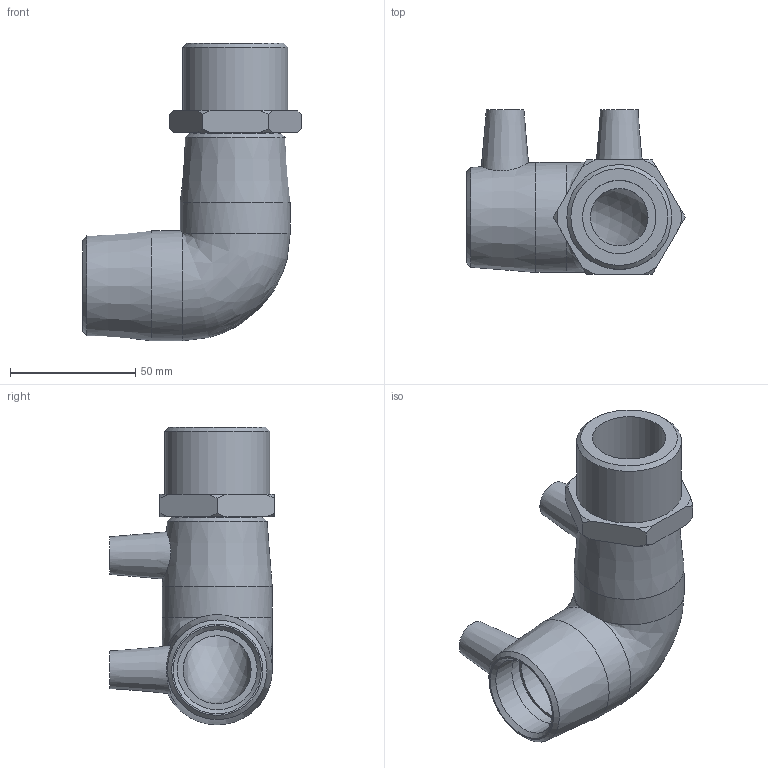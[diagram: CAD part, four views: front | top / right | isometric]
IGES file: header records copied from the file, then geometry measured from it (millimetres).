
Global section: file name: 492504032013.ipt; native system: Autodesk Inventor 2015; preprocessor: unknown; author: KIM; date: 20200202.122335; units: millimetre
Bounding box: 87.4 x 65.86 x 119 mm (x, y, z)
Volume: 134081.3 mm3; surface area: 41161.3 mm2
Topology: 1 solids, 2 shells, 59 faces, 143 edges, 96 vertices
Faces by surface type: plane 22, cone 19, revolution 10, cylinder 7, bspline 1
Full cylindrical faces by diameter (mm): 4 x2, 32 x2, 41.91 x1, 44 x2
